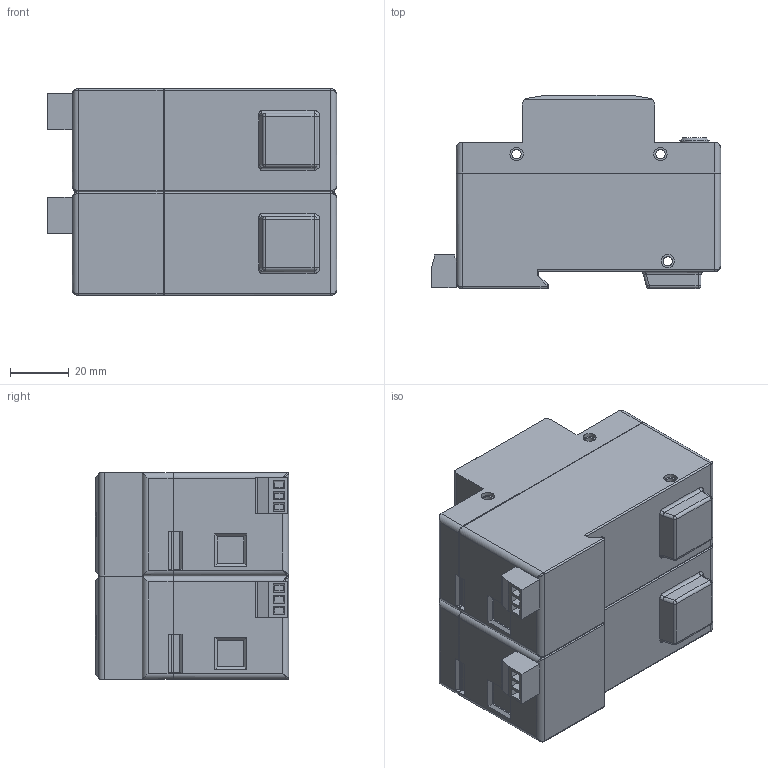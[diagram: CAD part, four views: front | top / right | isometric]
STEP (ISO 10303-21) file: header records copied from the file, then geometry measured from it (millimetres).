
FILE_DESCRIPTION(/* description */ (''),/* implementation_level */ '2;1');
FILE_NAME(/* name */ 'K:\PROJEKTY ROZPRACOVANÉ\MODELY DO KATALOGU\HLSA25, HLSA25G, HLA\3D - STEP\H25 2+0 S.stp',/* time_stamp */ '2020-03-24T07:22:50+01:00',/* author */ ('M Koliska'),/* organization */ (''),/* preprocessor_version */ 'ST-DEVELOPER v18',/* originating_system */ 'Autodesk Inventor 2020',/* authorisation */ '');
FILE_SCHEMA (('AUTOMOTIVE_DESIGN { 1 0 10303 214 3 1 1 }'));
Length unit declared in the file: millimetre
Products named in the file (10): HLSA25_2+0 S; HLSA25 S; HLSA25 S_1; HLSA25 S (N1); HLSA25 S (N1)_1; DIN 7985 (H) - M6x10-H; KONEKTOR DEGSON 15EDGK 3.81; KONEKTOR SAMEC; ISO 2009 - M1,6 x 2,5; KONEKTOR DEGSON 15EDGRC 3.81
Assembly tree (17 placements, depth 4):
  HLSA25_2+0 S
    HLSA25 S
      HLSA25 S_1
      DIN 7985 (H) - M6x10-H  x3
      KONEKTOR DEGSON 15EDGK 3.81
        KONEKTOR SAMEC
        ISO 2009 - M1,6 x 2,5  x3
      KONEKTOR DEGSON 15EDGRC 3.81
    HLSA25 S (N1)
      HLSA25 S (N1)_1
      DIN 7985 (H) - M6x10-H  x2
      KONEKTOR DEGSON 15EDGK 3.81
        KONEKTOR SAMEC
        ISO 2009 - M1,6 x 2,5  x3
      KONEKTOR DEGSON 15EDGRC 3.81
Bounding box: 98.5 x 65.8 x 70.4 mm (x, y, z)
Volume: 343125.8 mm3; surface area: 54071.7 mm2
Topology: 17 solids, 17 shells, 1102 faces, 2791 edges, 1820 vertices
Faces by surface type: plane 761, cylinder 186, cone 105, torus 21, sphere 17, bspline 12
Full cylindrical faces by diameter (mm): 0.968 x6, 1 x12, 1.171 x6, 1.6 x6, 1.9 x6, 2 x6, 2.5 x6, 3.2 x6, 4.5 x12, 5.5 x5, 6 x5, 7.5 x5, 10 x1
Entity records: 20885 total; most frequent: CARTESIAN_POINT 3924, DIRECTION 3437, ORIENTED_EDGE 3396, EDGE_CURVE 1698, LINE 1297, VECTOR 1297, VERTEX_POINT 1097, AXIS2_PLACEMENT_3D 1070
